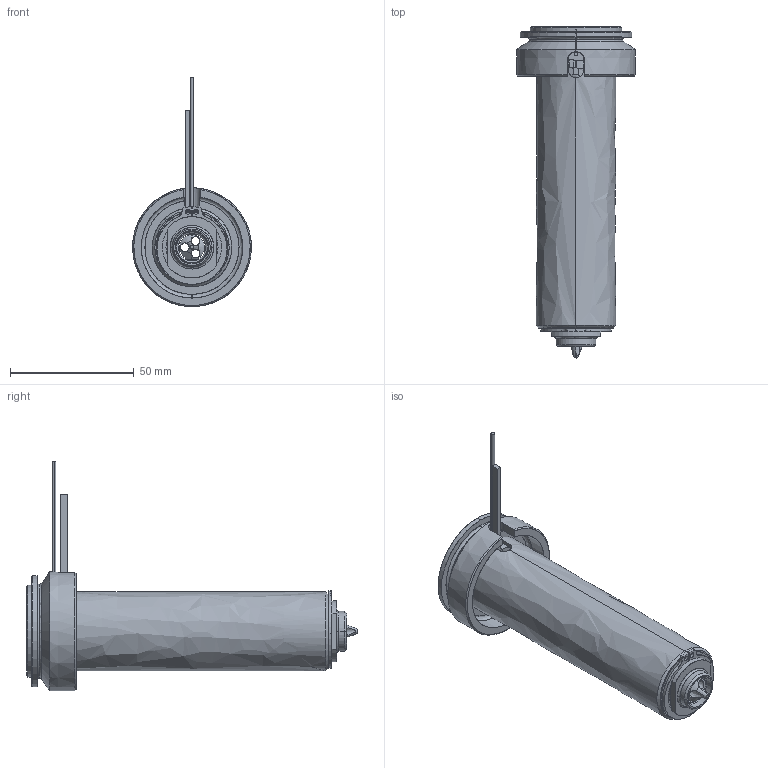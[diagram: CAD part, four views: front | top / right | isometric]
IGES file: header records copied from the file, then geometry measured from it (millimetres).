
Start section: SolidWorks IGES file using analytic representation for surfaces
Global section: file name: C:\Documents and Settings\ws-20\Desktop\TEM\UGEP5003-M-A-1 [Øf-1.55 ØC-12].IGS; native system: SolidWorks 2012; preprocessor: SolidWorks 2012; author: ws-20; date: 120426.100524; units: millimetre
Bounding box: 48 x 134.05 x 92.62 mm (x, y, z)
Surface area: 49808.6 mm2 (no closed solid volume)
Topology: 0 solids, 0 shells, 122 faces, 2328 edges, 2328 vertices
Faces by surface type: revolution 75, bspline 47
